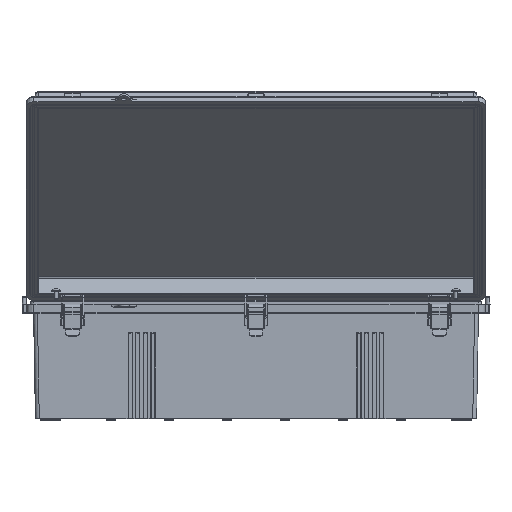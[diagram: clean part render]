
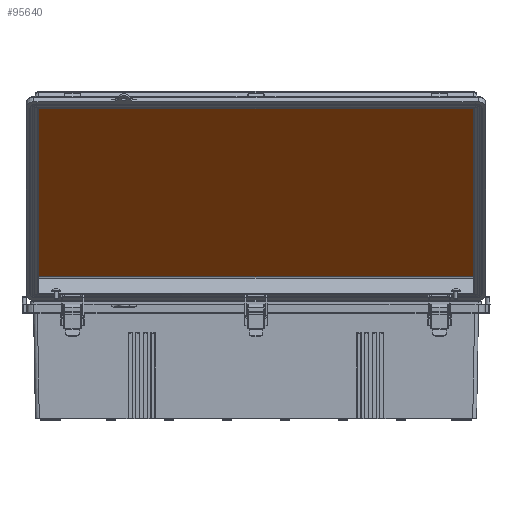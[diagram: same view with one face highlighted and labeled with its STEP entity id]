
A CAD part, top view. The second image highlights one B-rep face of the part: STEP entity #95640.
In plain terms, the highlighted planar face has unit normal (0, -0.76, 0.649) as drawn and (0, 1, 0) by its records, which use the part's own axes.
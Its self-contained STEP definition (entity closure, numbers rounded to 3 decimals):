
#820 = ORIENTED_EDGE ( 'NONE', *, *, #22578, .T. ) ;
#1174 = CARTESIAN_POINT ( 'NONE',  ( 284.871, -26.5, 183.861 ) ) ;
#2183 = CARTESIAN_POINT ( 'NONE',  ( -284.847, -26.5, 183.871 ) ) ;
#2975 = CARTESIAN_POINT ( 'NONE',  ( -284.847, -26.5, -183.871 ) ) ;
#3194 = DIRECTION ( 'NONE',  ( 0., 1., 0. ) ) ;
#4675 = LINE ( 'NONE', #13957, #11903 ) ;
#5530 = LINE ( 'NONE', #23918, #44283 ) ;
#6875 =( BOUNDED_CURVE ( )  B_SPLINE_CURVE ( 3, ( #56318, #57489, #19878, #2183 ),
 .UNSPECIFIED., .F., .T. ) 
 B_SPLINE_CURVE_WITH_KNOTS ( ( 4, 4 ),
 ( 2.357, 3.926 ),
 .UNSPECIFIED. ) 
 CURVE ( )  GEOMETRIC_REPRESENTATION_ITEM ( )  RATIONAL_B_SPLINE_CURVE ( ( 1., 0.805, 0.805, 1. ) ) 
 REPRESENTATION_ITEM ( '' )  );
#7509 =( BOUNDED_CURVE ( )  B_SPLINE_CURVE ( 3, ( #111370, #47686, #1174, #55663 ),
 .UNSPECIFIED., .F., .F. ) 
 B_SPLINE_CURVE_WITH_KNOTS ( ( 4, 4 ),
 ( 2.357, 3.926 ),
 .UNSPECIFIED. ) 
 CURVE ( )  GEOMETRIC_REPRESENTATION_ITEM ( )  RATIONAL_B_SPLINE_CURVE ( ( 1., 0.805, 0.805, 1. ) ) 
 REPRESENTATION_ITEM ( '' )  );
#10088 = EDGE_CURVE ( 'NONE', #43830, #66921, #19147, .T. ) ;
#10171 = CARTESIAN_POINT ( 'NONE',  ( -284.871, -26.5, 183.847 ) ) ;
#11903 = VECTOR ( 'NONE', #56420, 1000. ) ;
#12082 = CARTESIAN_POINT ( 'NONE',  ( 284.847, -26.5, -183.871 ) ) ;
#13137 = CARTESIAN_POINT ( 'NONE',  ( -284.847, -26.5, -183.871 ) ) ;
#13957 = CARTESIAN_POINT ( 'NONE',  ( -284.871, -26.5, 183.805 ) ) ;
#14366 = CARTESIAN_POINT ( 'NONE',  ( 284.847, -26.5, -183.871 ) ) ;
#15673 =( BOUNDED_CURVE ( )  B_SPLINE_CURVE ( 3, ( #89267, #59963, #115691, #14366 ),
 .UNSPECIFIED., .F., .F. ) 
 B_SPLINE_CURVE_WITH_KNOTS ( ( 4, 4 ),
 ( 2.357, 3.926 ),
 .UNSPECIFIED. ) 
 CURVE ( )  GEOMETRIC_REPRESENTATION_ITEM ( )  RATIONAL_B_SPLINE_CURVE ( ( 1., 0.805, 0.805, 1. ) ) 
 REPRESENTATION_ITEM ( '' )  );
#19147 = LINE ( 'NONE', #91374, #77906 ) ;
#19878 = CARTESIAN_POINT ( 'NONE',  ( -284.861, -26.5, 183.871 ) ) ;
#22038 = ORIENTED_EDGE ( 'NONE', *, *, #76182, .T. ) ;
#22578 = EDGE_CURVE ( 'NONE', #90819, #99894, #6875, .T. ) ;
#23918 = CARTESIAN_POINT ( 'NONE',  ( 284.805, -26.5, 183.871 ) ) ;
#25145 = ORIENTED_EDGE ( 'NONE', *, *, #54025, .T. ) ;
#26874 = DIRECTION ( 'NONE',  ( -1., 0., 0. ) ) ;
#32649 = CARTESIAN_POINT ( 'NONE',  ( -284.871, -26.5, -183.847 ) ) ;
#35237 = ORIENTED_EDGE ( 'NONE', *, *, #10088, .T. ) ;
#35823 = EDGE_CURVE ( 'NONE', #62656, #53613, #54317, .T. ) ;
#37481 =( BOUNDED_CURVE ( )  B_SPLINE_CURVE ( 3, ( #2975, #104787, #85969, #117177 ),
 .UNSPECIFIED., .F., .F. ) 
 B_SPLINE_CURVE_WITH_KNOTS ( ( 4, 4 ),
 ( 2.357, 3.926 ),
 .UNSPECIFIED. ) 
 CURVE ( )  GEOMETRIC_REPRESENTATION_ITEM ( )  RATIONAL_B_SPLINE_CURVE ( ( 1., 0.805, 0.805, 1. ) ) 
 REPRESENTATION_ITEM ( '' )  );
#39295 = DIRECTION ( 'NONE',  ( 0., 0., 1. ) ) ;
#39306 = CARTESIAN_POINT ( 'NONE',  ( 284.871, -26.5, -183.805 ) ) ;
#40071 = DIRECTION ( 'NONE',  ( 0., 0., -1. ) ) ;
#42219 = ORIENTED_EDGE ( 'NONE', *, *, #57157, .T. ) ;
#43830 = VERTEX_POINT ( 'NONE', #12082 ) ;
#44283 = VECTOR ( 'NONE', #86479, 1000. ) ;
#44431 = AXIS2_PLACEMENT_3D ( 'NONE', #68525, #3194, #39295 ) ;
#47686 = CARTESIAN_POINT ( 'NONE',  ( 284.861, -26.5, 183.871 ) ) ;
#53613 = VERTEX_POINT ( 'NONE', #94712 ) ;
#54025 = EDGE_CURVE ( 'NONE', #53613, #43830, #15673, .T. ) ;
#54317 = LINE ( 'NONE', #39306, #91569 ) ;
#55663 = CARTESIAN_POINT ( 'NONE',  ( 284.871, -26.5, 183.847 ) ) ;
#55803 = ORIENTED_EDGE ( 'NONE', *, *, #35823, .T. ) ;
#56318 = CARTESIAN_POINT ( 'NONE',  ( -284.871, -26.5, 183.847 ) ) ;
#56420 = DIRECTION ( 'NONE',  ( 0., 0., 1. ) ) ;
#57157 = EDGE_CURVE ( 'NONE', #97873, #90819, #4675, .T. ) ;
#57489 = CARTESIAN_POINT ( 'NONE',  ( -284.871, -26.5, 183.861 ) ) ;
#57611 = ORIENTED_EDGE ( 'NONE', *, *, #75833, .T. ) ;
#59268 = PLANE ( 'NONE',  #44431 ) ;
#59963 = CARTESIAN_POINT ( 'NONE',  ( 284.871, -26.5, -183.861 ) ) ;
#62656 = VERTEX_POINT ( 'NONE', #94794 ) ;
#64282 = EDGE_LOOP ( 'NONE', ( #55803, #25145, #35237, #96053, #42219, #820, #22038, #57611 ) ) ;
#66921 = VERTEX_POINT ( 'NONE', #13137 ) ;
#68525 = CARTESIAN_POINT ( 'NONE',  ( 0., -26.5, 0. ) ) ;
#75833 = EDGE_CURVE ( 'NONE', #87219, #62656, #7509, .T. ) ;
#76182 = EDGE_CURVE ( 'NONE', #99894, #87219, #5530, .T. ) ;
#77766 = CARTESIAN_POINT ( 'NONE',  ( -284.847, -26.5, 183.871 ) ) ;
#77906 = VECTOR ( 'NONE', #26874, 1000. ) ;
#85969 = CARTESIAN_POINT ( 'NONE',  ( -284.871, -26.5, -183.861 ) ) ;
#86479 = DIRECTION ( 'NONE',  ( 1., 0., 0. ) ) ;
#87219 = VERTEX_POINT ( 'NONE', #105865 ) ;
#89267 = CARTESIAN_POINT ( 'NONE',  ( 284.871, -26.5, -183.847 ) ) ;
#90819 = VERTEX_POINT ( 'NONE', #10171 ) ;
#91374 = CARTESIAN_POINT ( 'NONE',  ( -284.805, -26.5, -183.871 ) ) ;
#91569 = VECTOR ( 'NONE', #40071, 1000. ) ;
#94712 = CARTESIAN_POINT ( 'NONE',  ( 284.871, -26.5, -183.847 ) ) ;
#94794 = CARTESIAN_POINT ( 'NONE',  ( 284.871, -26.5, 183.847 ) ) ;
#95640 = ADVANCED_FACE ( 'NONE', ( #104429 ), #59268, .T. ) ;
#96053 = ORIENTED_EDGE ( 'NONE', *, *, #103805, .T. ) ;
#97873 = VERTEX_POINT ( 'NONE', #32649 ) ;
#99894 = VERTEX_POINT ( 'NONE', #77766 ) ;
#103805 = EDGE_CURVE ( 'NONE', #66921, #97873, #37481, .T. ) ;
#104429 = FACE_OUTER_BOUND ( 'NONE', #64282, .T. ) ;
#104787 = CARTESIAN_POINT ( 'NONE',  ( -284.861, -26.5, -183.871 ) ) ;
#105865 = CARTESIAN_POINT ( 'NONE',  ( 284.847, -26.5, 183.871 ) ) ;
#111370 = CARTESIAN_POINT ( 'NONE',  ( 284.847, -26.5, 183.871 ) ) ;
#115691 = CARTESIAN_POINT ( 'NONE',  ( 284.861, -26.5, -183.871 ) ) ;
#117177 = CARTESIAN_POINT ( 'NONE',  ( -284.871, -26.5, -183.847 ) ) ;
